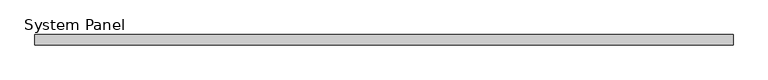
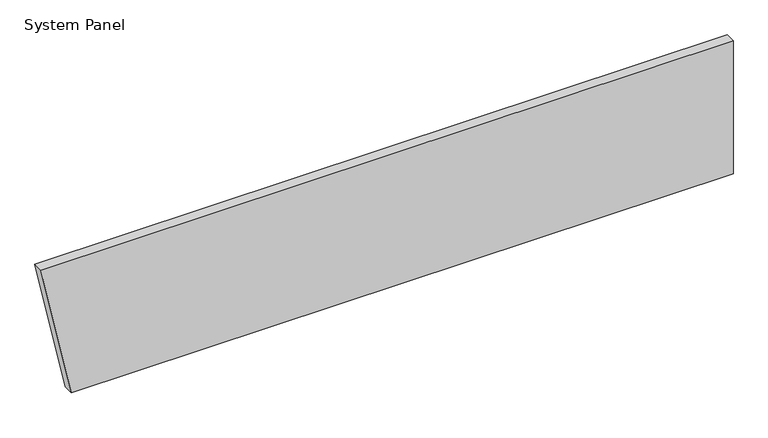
"""IFC4 building model written with IfcOpenShell, lengths in millimetres: plate geometry, System Panel : Inspire 80mm Horizontal - Plain RHEA-PIR."""

from ifc_helpers import new_model, si_unit, frame, origin, place, context, project, spatial, polyline, outline, extrude, source, transform, mapped, element, save


def system_panel_1faeb660(model_context):
    return source(origin(), model_context, "Body", "SweptSolid", [
        extrude(outline(polyline([(0.0, -2470.4338217), (0.0, 2709.5661783), (1100.0, 2709.5661783), (1100.0, -2709.5661783), (0.0, -2470.4338217)])), frame((0.0, -80.0, 0.0), z_axis=(0.0, 1.0, 0.0), x_axis=(0.0, 0.0, 1.0)), (0.0, 0.0, 1.0), 80.0),
    ])


if __name__ == "__main__":
    model = new_model("IFC4")
    model_context = context("Model", 3, world=origin())
    ifc_project = project(units=[si_unit("LENGTHUNIT", "METRE", prefix="MILLI")], contexts=[model_context])
    site = spatial("IfcSite", under=ifc_project)
    building = spatial("IfcBuilding", under=site)
    placement = place(None, origin())
    system_panel_shape = system_panel_1faeb660(model_context)
    element("IfcPlate", 1, ObjectType="System Panel : Inspire 80mm Horizontal - Plain RHEA-PIR", at=placement, inside=building, context=model_context, shape_type="MappedRepresentation", body=[
        mapped(system_panel_shape, transform((0.0, 0.0, 0.0), x_axis=(1.0, 0.0, 0.0), y_axis=(0.0, 1.0, 0.0), z_axis=(0.0, 0.0, 1.0))),
    ])
    save(model, "model.ifc")
